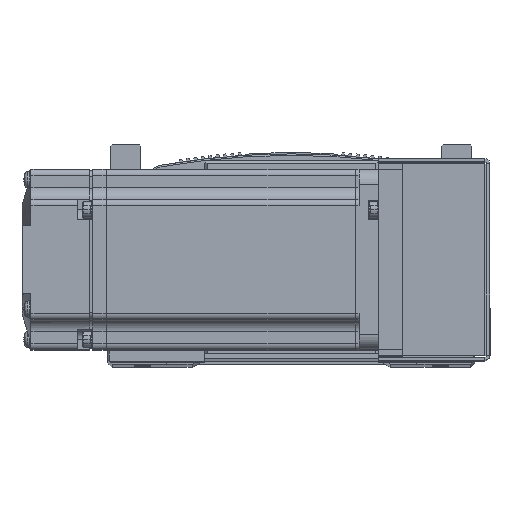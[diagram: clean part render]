
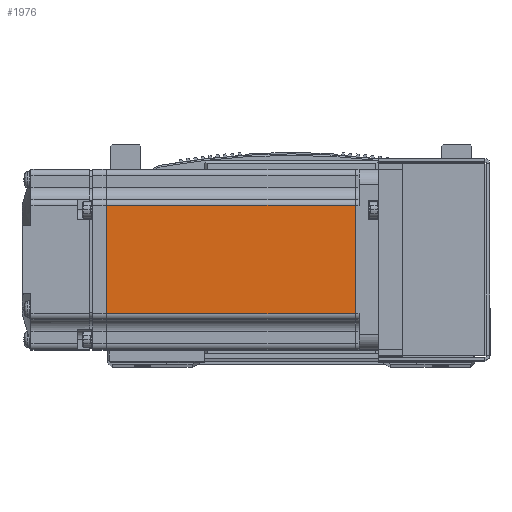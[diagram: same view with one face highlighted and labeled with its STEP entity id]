
A CAD part, top view. The second image highlights one B-rep face of the part: STEP entity #1976.
In plain terms, the highlighted planar face has unit normal (0, 0, 1) as drawn and (0, 1, 0) by its records, which use the part's own axes.
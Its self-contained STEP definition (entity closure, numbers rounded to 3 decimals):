
#1976 = ADVANCED_FACE ( 'NONE', ( #37421 ), #2047, .T. ) ;
#2047 = PLANE ( 'NONE',  #58439 ) ;
#2072 = DIRECTION ( 'NONE',  ( 0., 0., 1. ) ) ;
#2111 = CARTESIAN_POINT ( 'NONE',  ( -6.5, 30., 25. ) ) ;
#2171 = DIRECTION ( 'NONE',  ( 0., 1., 0. ) ) ;
#9279 = LINE ( 'NONE', #19270, #9361 ) ;
#9361 = VECTOR ( 'NONE', #19392, 1000. ) ;
#16540 = CARTESIAN_POINT ( 'NONE',  ( -90.45, 30., -18. ) ) ;
#16541 = CARTESIAN_POINT ( 'NONE',  ( -7.75, 30., -18. ) ) ;
#16556 = CARTESIAN_POINT ( 'NONE',  ( -7.75, 30., 18. ) ) ;
#16575 = CARTESIAN_POINT ( 'NONE',  ( -90.45, 30., 18. ) ) ;
#18885 = LINE ( 'NONE', #44754, #18916 ) ;
#18916 = VECTOR ( 'NONE', #44772, 1000. ) ;
#18963 = LINE ( 'NONE', #43501, #18978 ) ;
#18978 = VECTOR ( 'NONE', #43480, 1000. ) ;
#19073 = LINE ( 'NONE', #43518, #19218 ) ;
#19218 = VECTOR ( 'NONE', #43526, 1000. ) ;
#19270 = CARTESIAN_POINT ( 'NONE',  ( -6.5, 30., 18. ) ) ;
#19392 = DIRECTION ( 'NONE',  ( 1., 0., 0. ) ) ;
#37421 = FACE_OUTER_BOUND ( 'NONE', #67561, .T. ) ;
#43480 = DIRECTION ( 'NONE',  ( 0., 0., 1. ) ) ;
#43501 = CARTESIAN_POINT ( 'NONE',  ( -7.75, 30., 0. ) ) ;
#43518 = CARTESIAN_POINT ( 'NONE',  ( -6.5, 30., -18. ) ) ;
#43526 = DIRECTION ( 'NONE',  ( -1., 0., 0. ) ) ;
#44754 = CARTESIAN_POINT ( 'NONE',  ( -90.45, 30., 0. ) ) ;
#44772 = DIRECTION ( 'NONE',  ( 0., 0., 1. ) ) ;
#57090 = ORIENTED_EDGE ( 'NONE', *, *, #69435, .T. ) ;
#57127 = ORIENTED_EDGE ( 'NONE', *, *, #62777, .F. ) ;
#57190 = ORIENTED_EDGE ( 'NONE', *, *, #62750, .T. ) ;
#57194 = ORIENTED_EDGE ( 'NONE', *, *, #62791, .T. ) ;
#58439 = AXIS2_PLACEMENT_3D ( 'NONE', #2111, #2171, #2072 ) ;
#62750 = EDGE_CURVE ( 'NONE', #76599, #76567, #18885, .T. ) ;
#62777 = EDGE_CURVE ( 'NONE', #76597, #76565, #18963, .T. ) ;
#62791 = EDGE_CURVE ( 'NONE', #76597, #76599, #19073, .T. ) ;
#67561 = EDGE_LOOP ( 'NONE', ( #57127, #57194, #57190, #57090 ) ) ;
#69435 = EDGE_CURVE ( 'NONE', #76567, #76565, #9279, .T. ) ;
#76565 = VERTEX_POINT ( 'NONE', #16556 ) ;
#76567 = VERTEX_POINT ( 'NONE', #16575 ) ;
#76597 = VERTEX_POINT ( 'NONE', #16541 ) ;
#76599 = VERTEX_POINT ( 'NONE', #16540 ) ;
